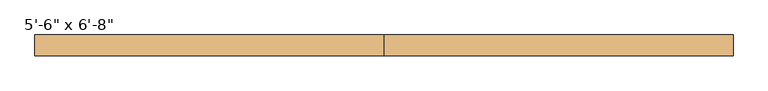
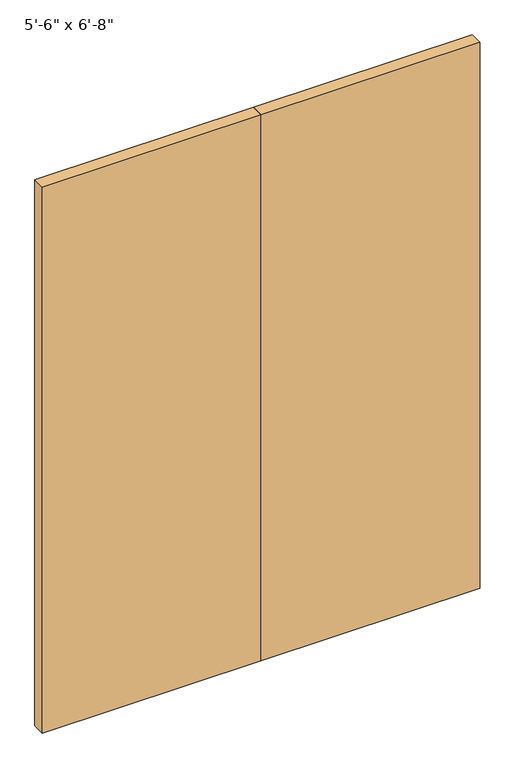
"""IFC4 building model written with IfcOpenShell, lengths in millimetres: door geometry."""

from ifc_helpers import new_model, si_unit, origin, origin_with_axes, place, context, project, spatial, polyline, outline, extrude, source, transform, mapped, element, save


def door_5da72c95(model_context):
    return source(origin(), model_context, "Body", "SweptSolid", [
        extrude(outline(polyline([(0.0, 82.55), (838.2, 82.55), (838.2, 32.55), (0.0, 32.55), (0.0, 82.55)])), origin_with_axes(), (0.0, 0.0, 1.0), 2209.8),
        extrude(outline(polyline([(-838.2, 82.55), (0.0, 82.55), (0.0, 32.55), (-838.2, 32.55), (-838.2, 82.55)])), origin_with_axes(), (0.0, 0.0, 1.0), 2209.8),
    ])


if __name__ == "__main__":
    model = new_model("IFC4")
    model_context = context("Model", 3, world=origin())
    ifc_project = project(units=[si_unit("LENGTHUNIT", "METRE", prefix="MILLI")], contexts=[model_context])
    site = spatial("IfcSite", under=ifc_project)
    building = spatial("IfcBuilding", under=site)
    placement = place(None, origin())
    door_shape = door_5da72c95(model_context)
    element("IfcDoor", 1, ObjectType="Planitar - Double Door_Flush Panel : 5'-6\" x 6'-8\"", at=placement, inside=building, context=model_context, shape_type="MappedRepresentation", body=[
        mapped(door_shape, transform((0.0, 0.0, 0.0), x_axis=(1.0, 0.0, 0.0), y_axis=(0.0, 1.0, 0.0), z_axis=(0.0, 0.0, 1.0))),
    ])
    save(model, "model.ifc")
